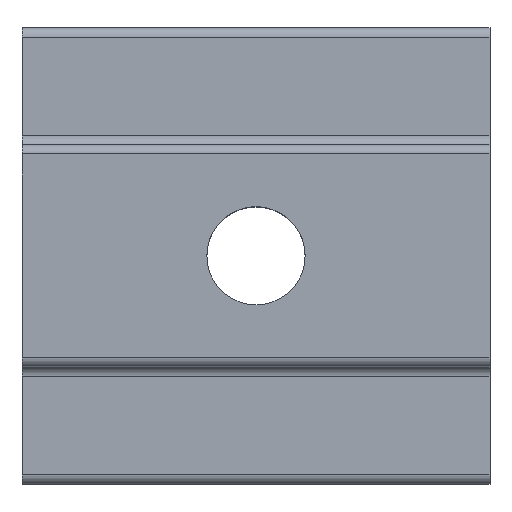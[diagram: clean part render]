
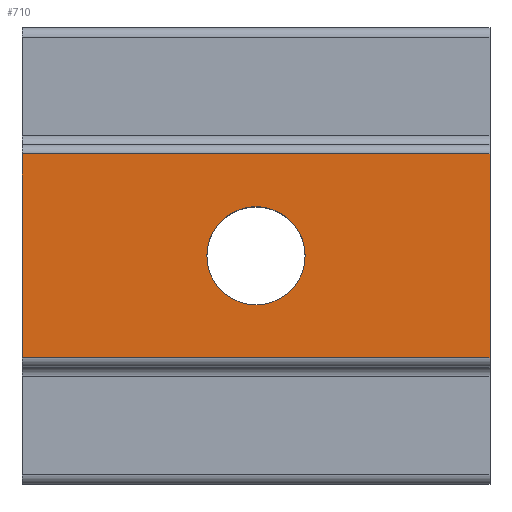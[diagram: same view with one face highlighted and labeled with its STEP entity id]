
A CAD part, top view. The second image highlights one B-rep face of the part: STEP entity #710.
In plain terms, the highlighted planar face has unit normal (0, 0, 1).
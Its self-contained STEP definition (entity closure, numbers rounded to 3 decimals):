
#18 = VERTEX_POINT ( 'NONE', #428 ) ;
#46 = DIRECTION ( 'NONE',  ( 1., 0., 0. ) ) ;
#48 = CARTESIAN_POINT ( 'NONE',  ( 10., 4.35, 0. ) ) ;
#84 = CIRCLE ( 'NONE', #468, 2.1 ) ;
#88 = DIRECTION ( 'NONE',  ( 1., 0., 0. ) ) ;
#98 = DIRECTION ( 'NONE',  ( 0., 0., 1. ) ) ;
#101 = EDGE_CURVE ( 'NONE', #405, #540, #274, .T. ) ;
#103 = DIRECTION ( 'NONE',  ( -1., 0., 0. ) ) ;
#104 = EDGE_CURVE ( 'NONE', #626, #525, #439, .T. ) ;
#122 = AXIS2_PLACEMENT_3D ( 'NONE', #368, #474, #88 ) ;
#149 = DIRECTION ( 'NONE',  ( 1., 0., 0. ) ) ;
#151 = CARTESIAN_POINT ( 'NONE',  ( -10., 4.35, 0. ) ) ;
#196 = CARTESIAN_POINT ( 'NONE',  ( 10., 4.35, 0. ) ) ;
#203 = CARTESIAN_POINT ( 'NONE',  ( 10., 4.35, 0. ) ) ;
#205 = VERTEX_POINT ( 'NONE', #446 ) ;
#214 = EDGE_LOOP ( 'NONE', ( #527, #256, #295, #683 ) ) ;
#227 = LINE ( 'NONE', #609, #367 ) ;
#237 = AXIS2_PLACEMENT_3D ( 'NONE', #203, #399, #456 ) ;
#251 = CARTESIAN_POINT ( 'NONE',  ( 10., -4.35, 0. ) ) ;
#253 = EDGE_CURVE ( 'NONE', #525, #405, #227, .T. ) ;
#256 = ORIENTED_EDGE ( 'NONE', *, *, #253, .F. ) ;
#258 = CIRCLE ( 'NONE', #122, 2.1 ) ;
#259 = CARTESIAN_POINT ( 'NONE',  ( -10., 4.35, 0. ) ) ;
#274 = LINE ( 'NONE', #542, #556 ) ;
#295 = ORIENTED_EDGE ( 'NONE', *, *, #104, .F. ) ;
#299 = VECTOR ( 'NONE', #651, 1000. ) ;
#367 = VECTOR ( 'NONE', #671, 1000. ) ;
#368 = CARTESIAN_POINT ( 'NONE',  ( 0., 0., 0. ) ) ;
#387 = EDGE_LOOP ( 'NONE', ( #498, #661 ) ) ;
#399 = DIRECTION ( 'NONE',  ( 0., 0., -1. ) ) ;
#405 = VERTEX_POINT ( 'NONE', #251 ) ;
#420 = CARTESIAN_POINT ( 'NONE',  ( -10., -4.35, 0. ) ) ;
#427 = LINE ( 'NONE', #259, #299 ) ;
#428 = CARTESIAN_POINT ( 'NONE',  ( 2.1, 0., 0. ) ) ;
#439 = LINE ( 'NONE', #48, #641 ) ;
#441 = EDGE_CURVE ( 'NONE', #205, #18, #258, .T. ) ;
#446 = CARTESIAN_POINT ( 'NONE',  ( -2.1, 0., 0. ) ) ;
#456 = DIRECTION ( 'NONE',  ( 0., 1., 0. ) ) ;
#468 = AXIS2_PLACEMENT_3D ( 'NONE', #656, #98, #46 ) ;
#474 = DIRECTION ( 'NONE',  ( 0., 0., 1. ) ) ;
#479 = FACE_OUTER_BOUND ( 'NONE', #214, .T. ) ;
#498 = ORIENTED_EDGE ( 'NONE', *, *, #593, .F. ) ;
#525 = VERTEX_POINT ( 'NONE', #196 ) ;
#527 = ORIENTED_EDGE ( 'NONE', *, *, #101, .F. ) ;
#540 = VERTEX_POINT ( 'NONE', #420 ) ;
#541 = FACE_BOUND ( 'NONE', #387, .T. ) ;
#542 = CARTESIAN_POINT ( 'NONE',  ( 10., -4.35, 0. ) ) ;
#556 = VECTOR ( 'NONE', #103, 1000. ) ;
#593 = EDGE_CURVE ( 'NONE', #18, #205, #84, .T. ) ;
#609 = CARTESIAN_POINT ( 'NONE',  ( 10., 4.35, 0. ) ) ;
#626 = VERTEX_POINT ( 'NONE', #151 ) ;
#641 = VECTOR ( 'NONE', #149, 1000. ) ;
#651 = DIRECTION ( 'NONE',  ( 0., -1., 0. ) ) ;
#656 = CARTESIAN_POINT ( 'NONE',  ( 0., 0., 0. ) ) ;
#661 = ORIENTED_EDGE ( 'NONE', *, *, #441, .F. ) ;
#671 = DIRECTION ( 'NONE',  ( 0., -1., 0. ) ) ;
#674 = EDGE_CURVE ( 'NONE', #626, #540, #427, .T. ) ;
#683 = ORIENTED_EDGE ( 'NONE', *, *, #674, .T. ) ;
#705 = PLANE ( 'NONE',  #237 ) ;
#710 = ADVANCED_FACE ( 'NONE', ( #541, #479 ), #705, .F. ) ;
